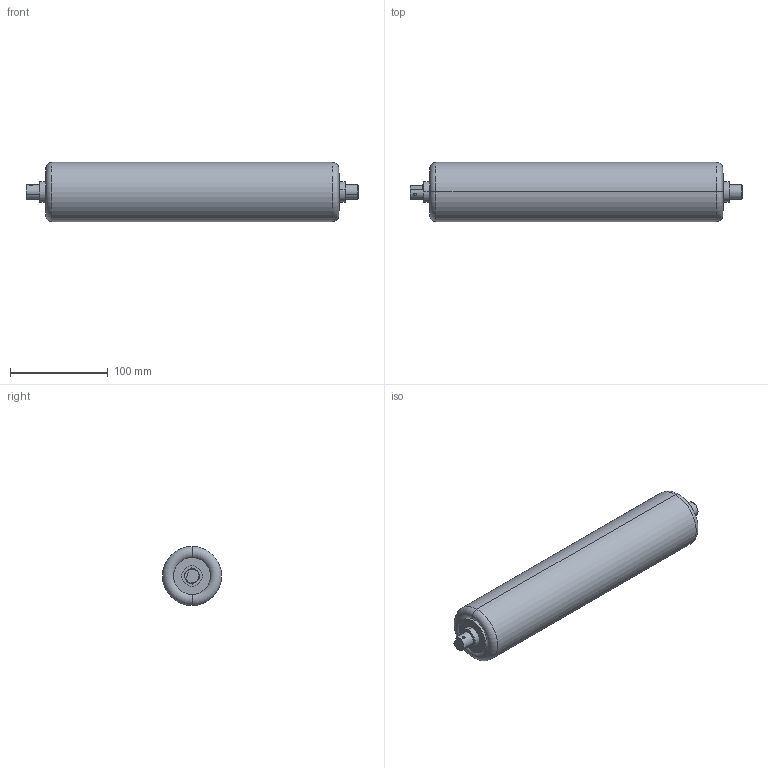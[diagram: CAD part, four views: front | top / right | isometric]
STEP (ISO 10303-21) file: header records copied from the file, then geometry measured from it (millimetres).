
FILE_DESCRIPTION (( 'STEP AP203' ), '1' );
FILE_NAME ('HR-6023.STEP', '2022-03-25T04:26:42', ( 'Microsoft' ), ( 'Microsoft' ), 'SwSTEP 2.0', 'SolidWorks 2020', '' );
FILE_SCHEMA (( 'CONFIG_CONTROL_DESIGN' ));
Length unit declared in the file: millimetre
Products named in the file (4): HR-6023-芠极; HR-6023-粣創; HQ-6023-粣; HR-6023
Assembly tree (4 placements, depth 2):
  HR-6023
    HQ-6023-粣
    HR-6023-芠极
    HR-6023-粣創  x2
Bounding box: 340 x 60.5 x 60.5 mm (x, y, z)
Volume: 213548.3 mm3; surface area: 147996.3 mm2
Topology: 4 solids, 6 shells, 85 faces, 173 edges, 100 vertices
Faces by surface type: cylinder 40, torus 16, cone 15, plane 14
Entity records: 2176 total; most frequent: CARTESIAN_POINT 370, DIRECTION 338, ORIENTED_EDGE 254, AXIS2_PLACEMENT_3D 148, EDGE_CURVE 127, CIRCLE 79, VERTEX_POINT 72, EDGE_LOOP 69
